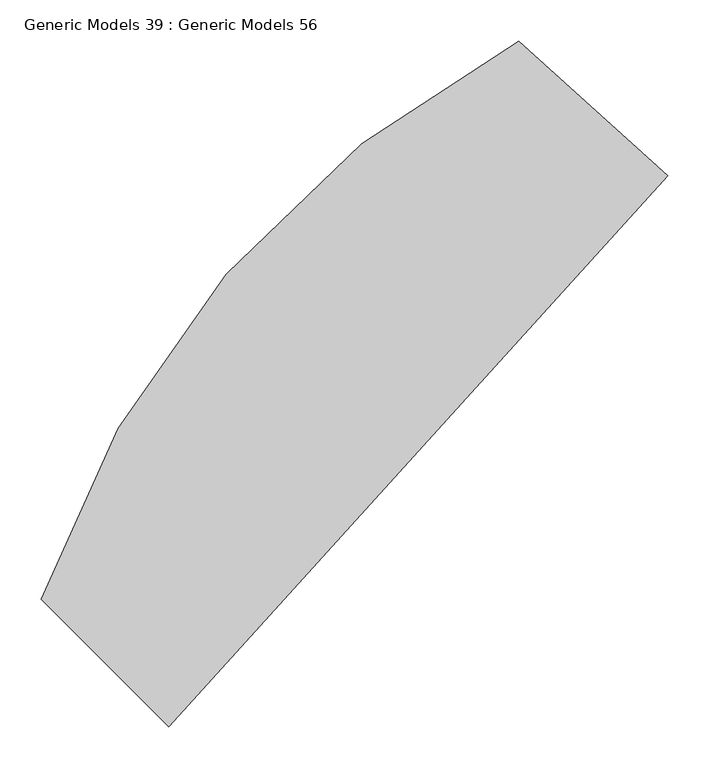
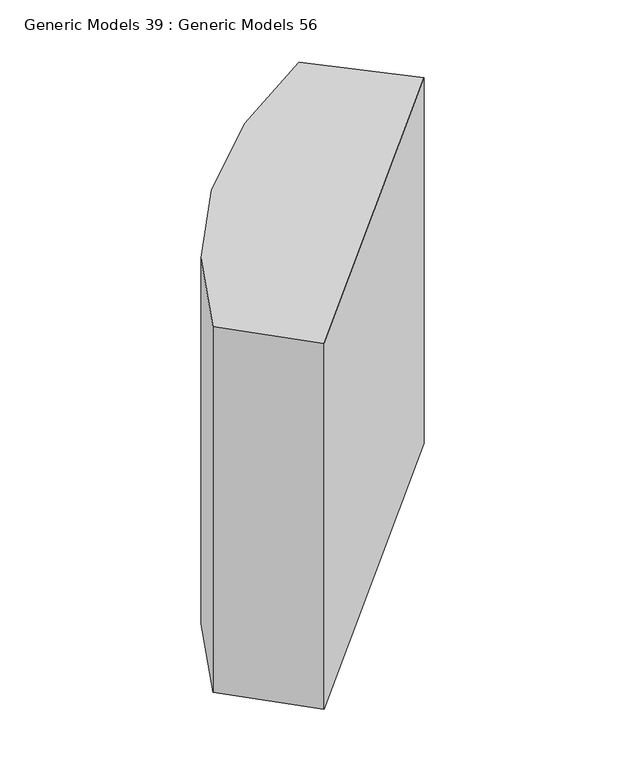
"""IFC4 building model written with IfcOpenShell, lengths in millimetres: proxy geometry, Generic Models 39 : Generic Models 56."""

import ifcopenshell
import ifcopenshell.guid

model = None  # the IFC model being written
_history = None  # IfcOwnerHistory: only IFC2X3 demands one
_inside = {}  # id of a spatial element -> (the spatial element, [elements in it])
_under = {}  # id of a project, library or spatial element -> (it, [spatial elements below it])
_declared = {}  # id of a project -> (the project, [libraries it declares])
_typed = {}  # id of a type object -> (the type object, [elements of that type])
_made_of = {}  # id of a material, layer set ... -> (it, [elements and type objects made of it])


def new_model(schema):
    """Start an empty IFC model of exactly this schema.

    Asked for "IFC4X3", IfcOpenShell would pick the latest addendum, in which some entities
    have other attributes; the version numbers below select the first issue.
    IFC2X3 requires an IfcOwnerHistory on every rooted entity: one is made here for all.
    """
    global model, _history
    if schema == "IFC4X3":
        model = ifcopenshell.file(schema_version=(4, 3, 0, 0))
    else:
        model = ifcopenshell.file(schema=schema)
    _inside.clear()
    _under.clear()
    _declared.clear()
    _typed.clear()
    _made_of.clear()
    _history = None
    if model.schema == "IFC2X3":
        org = make("IfcOrganization", Name="unknown")
        user = make(
            "IfcPersonAndOrganization",
            ThePerson=make("IfcPerson", FamilyName="unknown"),
            TheOrganization=org,
        )
        app = make(
            "IfcApplication",
            ApplicationDeveloper=org,
            Version="unknown",
            ApplicationFullName="unknown",
            ApplicationIdentifier="unknown",
        )
        _history = make(
            "IfcOwnerHistory",
            OwningUser=user,
            OwningApplication=app,
            ChangeAction="ADDED",
            CreationDate=0,
        )
    return model


def make(cls, **values):
    """One entity of the class cls with the attributes given. An attribute that is None is left unset."""
    return model.create_entity(
        cls, **{name: value for name, value in values.items() if value is not None}
    )


def rooted(cls, **values):
    """An entity with a GlobalId (a new one), such as an element, a storey or a relation."""
    return make(cls, GlobalId=ifcopenshell.guid.new(), OwnerHistory=_history, **values)


def si_unit(unit_type, name, prefix=None):
    """IfcSIUnit, for example si_unit("LENGTHUNIT", "METRE", prefix="MILLI")."""
    return make("IfcSIUnit", UnitType=unit_type, Prefix=prefix, Name=name)


def assignment(units):
    """IfcUnitAssignment: the units of a project."""
    return None if units is None else make("IfcUnitAssignment", Units=units)


def point(xyz):
    """IfcCartesianPoint."""
    return None if xyz is None else make("IfcCartesianPoint", Coordinates=xyz)


def direction(xyz):
    """IfcDirection."""
    return None if xyz is None else make("IfcDirection", DirectionRatios=xyz)


def frame(location, z_axis=None, x_axis=None):
    """IfcAxis2Placement3D, a coordinate frame: its origin and axes. An axis left out is left unset."""
    return make(
        "IfcAxis2Placement3D",
        Location=point(location),
        Axis=direction(z_axis),
        RefDirection=direction(x_axis),
    )


def frame_2d(location, x_axis=None):
    """IfcAxis2Placement2D, a coordinate frame in the plane: its origin and x axis."""
    return make(
        "IfcAxis2Placement2D", Location=point(location), RefDirection=direction(x_axis)
    )


def origin():
    """The frame at (0, 0, 0) with its axes left unset."""
    return frame((0.0, 0.0, 0.0))


def origin_with_axes():
    """The frame at (0, 0, 0) with the z axis (0, 0, 1) and the x axis (1, 0, 0) written out."""
    return frame((0.0, 0.0, 0.0), z_axis=(0.0, 0.0, 1.0), x_axis=(1.0, 0.0, 0.0))


def place(relative_to, where):
    """IfcLocalPlacement: puts the frame where relative to a parent placement (None: the world)."""
    return make(
        "IfcLocalPlacement", PlacementRelTo=relative_to, RelativePlacement=where
    )


def context(
    kind, dimensions, precision=None, world=None, true_north=None, identifier=None
):
    """IfcGeometricRepresentationContext, for example the 3D "Model" context."""
    return make(
        "IfcGeometricRepresentationContext",
        ContextIdentifier=identifier,
        ContextType=kind,
        CoordinateSpaceDimension=dimensions,
        Precision=precision,
        WorldCoordinateSystem=world,
        TrueNorth=true_north,
    )


def project(units=None, contexts=None):
    """IfcProject with its units and contexts."""
    return rooted(
        "IfcProject",
        Name="project",
        RepresentationContexts=contexts,
        UnitsInContext=assignment(units),
    )


def spatial(cls, under=None, at=None, **own):
    """A site, building, storey or space (cls), placed at a placement, below another one or the project."""
    s = rooted(cls, ObjectPlacement=at, **own)
    if under is not None:
        _under.setdefault(under.id(), (under, []))[1].append(s)
    return s


def polyline(points):
    """IfcPolyline through the points."""
    return make("IfcPolyline", Points=[point(p) for p in points])


def circle_curve(where, radius):
    """IfcCircle in the frame where."""
    return make("IfcCircle", Position=where, Radius=radius)


def trimmed(basis, trim1, trim2, sense, master):
    """IfcTrimmedCurve: the piece of a basis curve between two trims."""
    return make(
        "IfcTrimmedCurve",
        BasisCurve=basis,
        Trim1=trim1,
        Trim2=trim2,
        SenseAgreement=sense,
        MasterRepresentation=master,
    )


def segment(curve, same_sense, transition):
    """IfcCompositeCurveSegment."""
    return make(
        "IfcCompositeCurveSegment",
        Transition=transition,
        SameSense=same_sense,
        ParentCurve=curve,
    )


def composite_curve(segments, self_intersect=None):
    """IfcCompositeCurve: segments joined end to end."""
    return make("IfcCompositeCurve", Segments=segments, SelfIntersect=self_intersect)


def outline(outer, holes=None, kind="AREA"):
    """IfcArbitraryClosedProfileDef: a profile drawn as a closed curve; with holes, ...WithVoids."""
    if holes is None:
        return make("IfcArbitraryClosedProfileDef", ProfileType=kind, OuterCurve=outer)
    return make(
        "IfcArbitraryProfileDefWithVoids",
        ProfileType=kind,
        OuterCurve=outer,
        InnerCurves=holes,
    )


def extrude(swept, where, along, depth):
    """IfcExtrudedAreaSolid: the profile swept, set in the frame where, extruded along a direction by depth."""
    return make(
        "IfcExtrudedAreaSolid",
        SweptArea=swept,
        Position=where,
        ExtrudedDirection=direction(along),
        Depth=depth,
    )


def shape(context_of_items, identifier, shape_type, items):
    """IfcShapeRepresentation: the items that make up one representation, for example the "Body"."""
    return make(
        "IfcShapeRepresentation",
        ContextOfItems=context_of_items,
        RepresentationIdentifier=identifier,
        RepresentationType=shape_type,
        Items=items,
    )


def source(mapping_origin, context_of_items, identifier, shape_type, items):
    """IfcRepresentationMap: a shape defined once, which mapped items show again and again."""
    return make(
        "IfcRepresentationMap",
        MappingOrigin=mapping_origin,
        MappedRepresentation=shape(context_of_items, identifier, shape_type, items),
    )


def transform(
    local_origin,
    x_axis=None,
    y_axis=None,
    z_axis=None,
    scale=None,
    scale2=None,
    scale3=None,
    uniform=True,
):
    """IfcCartesianTransformationOperator3D, or its non-uniform kind. x_axis, y_axis, z_axis: its Axis1, 2, 3."""
    if uniform:
        return make(
            "IfcCartesianTransformationOperator3D",
            Axis1=direction(x_axis),
            Axis2=direction(y_axis),
            LocalOrigin=point(local_origin),
            Scale=scale,
            Axis3=direction(z_axis),
        )
    return make(
        "IfcCartesianTransformationOperator3DnonUniform",
        Axis1=direction(x_axis),
        Axis2=direction(y_axis),
        LocalOrigin=point(local_origin),
        Scale=scale,
        Axis3=direction(z_axis),
        Scale2=scale2,
        Scale3=scale3,
    )


def mapped(mapping_source, mapping_target):
    """IfcMappedItem: shows the shape of a source again, moved by a transform."""
    return make(
        "IfcMappedItem", MappingSource=mapping_source, MappingTarget=mapping_target
    )


def made_of(thing, what):
    """Note that an element or type object is made of a material, layer set ...; save() writes the relation."""
    if what is not None:
        _made_of.setdefault(what.id(), (what, []))[1].append(thing)
    return thing


def element(
    cls,
    number,
    at=None,
    inside=None,
    cuts=None,
    type_object=None,
    material=None,
    context=None,
    identifier="Body",
    shape_type=None,
    held_by="IfcProductDefinitionShape",
    body=None,
    shapes=None,
    **own,
):
    """One element of the class cls, such as IfcWall. Its Tag is "e" and its number.

    at: its placement. inside: the storey or other place that contains it. cuts: it is an
    opening in that element (IfcRelVoidsElement). A single representation is given by context,
    identifier, shape_type and body (its items); several are given by shapes. held_by: the class
    of the entity that holds the representations. save() writes the other relations.
    """
    e = rooted(cls, Tag="e%d" % number, ObjectPlacement=at, **own)
    if body is not None:
        shapes = [shape(context, identifier, shape_type, body)]
    if shapes is not None:
        e.Representation = make(held_by, Representations=shapes)
    if inside is not None:
        _inside.setdefault(inside.id(), (inside, []))[1].append(e)
    if cuts is not None:
        rooted(
            "IfcRelVoidsElement", RelatingBuildingElement=cuts, RelatedOpeningElement=e
        )
    if type_object is not None:
        _typed.setdefault(type_object.id(), (type_object, []))[1].append(e)
    return made_of(e, material)


def aggregate(whole, parts):
    """IfcRelAggregates: a whole, such as a stair, and the parts it consists of."""
    return rooted("IfcRelAggregates", RelatingObject=whole, RelatedObjects=parts)


def save(model, path):
    """Write the relations noted so far, then the file.

    IfcRelAggregates (storeys below a building ...), IfcRelContainedInSpatialStructure (elements
    in a storey), IfcRelDefinesByType, IfcRelAssociatesMaterial and IfcRelDeclares: one each for
    every whole, place, type object, material and project.
    """
    for whole, parts in _under.values():
        aggregate(whole, parts)
    for where, things in _inside.values():
        rooted(
            "IfcRelContainedInSpatialStructure",
            RelatedElements=things,
            RelatingStructure=where,
        )
    for kind, things in _typed.values():
        rooted("IfcRelDefinesByType", RelatedObjects=things, RelatingType=kind)
    for what, things in _made_of.values():
        rooted("IfcRelAssociatesMaterial", RelatedObjects=things, RelatingMaterial=what)
    for by, libraries in _declared.values():
        rooted("IfcRelDeclares", RelatingContext=by, RelatedDefinitions=libraries)
    model.write(path)


def generic_models_39_generic_models_56_516ace53(model_context):
    return source(origin(), model_context, "Body", "SweptSolid", [
        extrude(outline(composite_curve([segment(polyline([(-4057.0398128, 3554.0388305), (-3876.379822, 3390.4560309), (-4482.6778658, 2720.8636331), (-4637.578906, 2875.7646733)]), True, "CONTINUOUS"), segment(trimmed(circle_curve(frame_2d((-3496.5603991, 2486.7403962)), 1205.5136337), [point((-4637.578906, 2875.7646733))], [point((-4057.0398128, 3554.0388305))], False, "CARTESIAN"), True, "CONTINUOUS")], self_intersect=False)), origin_with_axes(), (0.0, 0.0, 1.0), 850.0),
    ])


if __name__ == "__main__":
    model = new_model("IFC4")
    model_context = context("Model", 3, world=origin())
    ifc_project = project(units=[si_unit("LENGTHUNIT", "METRE", prefix="MILLI")], contexts=[model_context])
    site = spatial("IfcSite", under=ifc_project)
    building = spatial("IfcBuilding", under=site)
    placement = place(None, origin())
    generic_models_39_generic_models_56_shape = generic_models_39_generic_models_56_516ace53(model_context)
    element("IfcBuildingElementProxy", 1, Name="Generic Models 39 : Generic Models 56", ObjectType="Generic Models 39 : Generic Models 56", at=placement, inside=building, context=model_context, shape_type="MappedRepresentation", body=[
        mapped(generic_models_39_generic_models_56_shape, transform((0.0, 0.0, 0.0), x_axis=(1.0, 0.0, 0.0), y_axis=(0.0, 1.0, 0.0), z_axis=(0.0, 0.0, 1.0))),
    ])
    save(model, "model.ifc")
